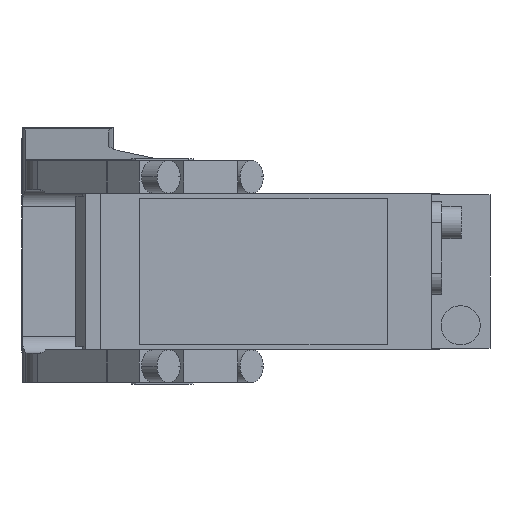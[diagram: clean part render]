
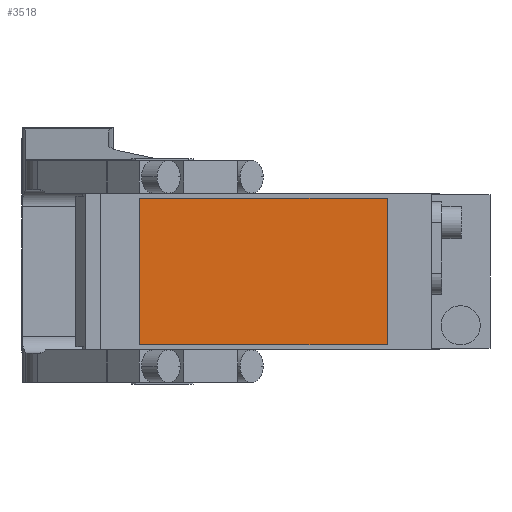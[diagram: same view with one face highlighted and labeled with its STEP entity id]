
A CAD part, front view. The second image highlights one B-rep face of the part: STEP entity #3518.
In plain terms, the highlighted planar face has unit normal (0, -1, 0).
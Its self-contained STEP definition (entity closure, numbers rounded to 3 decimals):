
#424 = EDGE_LOOP ( 'NONE', ( #9342, #4168, #10327, #4304 ) ) ;
#449 = LINE ( 'NONE', #4729, #6391 ) ;
#689 = VERTEX_POINT ( 'NONE', #7647 ) ;
#1382 = LINE ( 'NONE', #12046, #2998 ) ;
#2110 = VERTEX_POINT ( 'NONE', #13362 ) ;
#2508 = VECTOR ( 'NONE', #6797, 1000. ) ;
#2998 = VECTOR ( 'NONE', #9795, 1000. ) ;
#3518 = ADVANCED_FACE ( 'NONE', ( #12293 ), #12376, .T. ) ;
#3645 = CARTESIAN_POINT ( 'NONE',  ( -7., -280.5, -22.5 ) ) ;
#3740 = DIRECTION ( 'NONE',  ( 0., -1., 0. ) ) ;
#3812 = CARTESIAN_POINT ( 'NONE',  ( 0., -280.5, 0. ) ) ;
#4000 = VERTEX_POINT ( 'NONE', #9540 ) ;
#4168 = ORIENTED_EDGE ( 'NONE', *, *, #6009, .T. ) ;
#4304 = ORIENTED_EDGE ( 'NONE', *, *, #11763, .T. ) ;
#4729 = CARTESIAN_POINT ( 'NONE',  ( 69., -280.5, 22.5 ) ) ;
#5523 = VECTOR ( 'NONE', #6821, 1000. ) ;
#5951 = CARTESIAN_POINT ( 'NONE',  ( -7., -280.5, 22.5 ) ) ;
#6009 = EDGE_CURVE ( 'NONE', #689, #4000, #13384, .T. ) ;
#6081 = CARTESIAN_POINT ( 'NONE',  ( 69., -280.5, 22.5 ) ) ;
#6391 = VECTOR ( 'NONE', #9054, 1000. ) ;
#6797 = DIRECTION ( 'NONE',  ( -1., 0., 0. ) ) ;
#6821 = DIRECTION ( 'NONE',  ( 1., 0., 0. ) ) ;
#6837 = DIRECTION ( 'NONE',  ( 0., 0., -1. ) ) ;
#6958 = LINE ( 'NONE', #5951, #2508 ) ;
#7647 = CARTESIAN_POINT ( 'NONE',  ( -7., -280.5, -22.5 ) ) ;
#9054 = DIRECTION ( 'NONE',  ( 0., 0., 1. ) ) ;
#9342 = ORIENTED_EDGE ( 'NONE', *, *, #10419, .T. ) ;
#9479 = EDGE_CURVE ( 'NONE', #4000, #11720, #449, .T. ) ;
#9540 = CARTESIAN_POINT ( 'NONE',  ( 69., -280.5, -22.5 ) ) ;
#9795 = DIRECTION ( 'NONE',  ( 0., 0., -1. ) ) ;
#10327 = ORIENTED_EDGE ( 'NONE', *, *, #9479, .T. ) ;
#10419 = EDGE_CURVE ( 'NONE', #2110, #689, #1382, .T. ) ;
#10526 = AXIS2_PLACEMENT_3D ( 'NONE', #3812, #3740, #6837 ) ;
#11720 = VERTEX_POINT ( 'NONE', #6081 ) ;
#11763 = EDGE_CURVE ( 'NONE', #11720, #2110, #6958, .T. ) ;
#12046 = CARTESIAN_POINT ( 'NONE',  ( -7., -280.5, 22.5 ) ) ;
#12293 = FACE_OUTER_BOUND ( 'NONE', #424, .T. ) ;
#12376 = PLANE ( 'NONE',  #10526 ) ;
#13362 = CARTESIAN_POINT ( 'NONE',  ( -7., -280.5, 22.5 ) ) ;
#13384 = LINE ( 'NONE', #3645, #5523 ) ;
